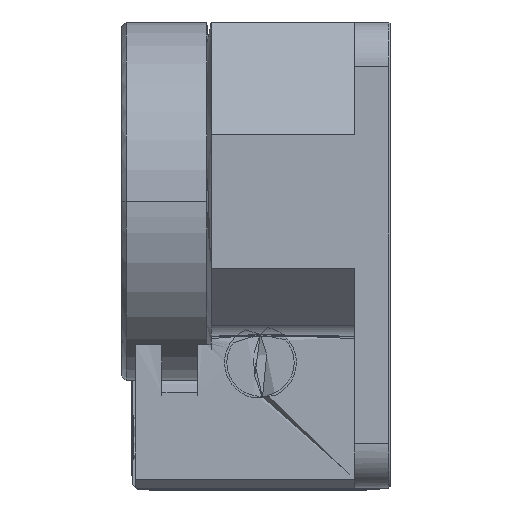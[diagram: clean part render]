
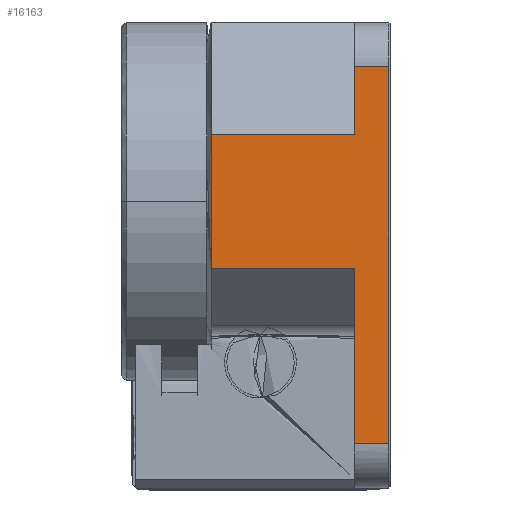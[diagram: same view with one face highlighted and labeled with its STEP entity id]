
A CAD part, left-side view. The second image highlights one B-rep face of the part: STEP entity #16163.
In plain terms, the highlighted planar face has unit normal (-1, 0, 0).
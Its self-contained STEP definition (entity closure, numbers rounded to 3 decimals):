
#697 = CARTESIAN_POINT ( 'NONE',  ( -20., 14.667, -7.5 ) ) ;
#822 = CARTESIAN_POINT ( 'NONE',  ( -20., 4., -20.5 ) ) ;
#1041 = EDGE_CURVE ( 'NONE', #30453, #6516, #5817, .T. ) ;
#1116 = CARTESIAN_POINT ( 'NONE',  ( -20., 2.733, -27. ) ) ;
#1667 = CARTESIAN_POINT ( 'NONE',  ( -20., 4., 7.5 ) ) ;
#2408 = CARTESIAN_POINT ( 'NONE',  ( -20., 0.2, 1. ) ) ;
#3066 = CARTESIAN_POINT ( 'NONE',  ( -20., 0.2, 15. ) ) ;
#3095 = VERTEX_POINT ( 'NONE', #19994 ) ;
#3163 = CARTESIAN_POINT ( 'NONE',  ( -20., 4., -27. ) ) ;
#3164 = EDGE_CURVE ( 'NONE', #23253, #22170, #29509, .T. ) ;
#3666 = CARTESIAN_POINT ( 'NONE',  ( -20., 9.333, -7.5 ) ) ;
#4283 = B_SPLINE_CURVE_WITH_KNOTS ( 'NONE', 3,
 ( #31467, #24942, #36947, #22379 ),
 .UNSPECIFIED., .F., .F.,
 ( 4, 4 ),
 ( 0., 1. ),
 .UNSPECIFIED. ) ;
#5817 = B_SPLINE_CURVE_WITH_KNOTS ( 'NONE', 3,
 ( #9959, #3666, #697, #24727 ),
 .UNSPECIFIED., .F., .F.,
 ( 4, 4 ),
 ( 0., 1. ),
 .UNSPECIFIED. ) ;
#5907 = CARTESIAN_POINT ( 'NONE',  ( -20., 0.2, 15. ) ) ;
#6516 = VERTEX_POINT ( 'NONE', #24325 ) ;
#6772 = EDGE_CURVE ( 'NONE', #21962, #23253, #37517, .T. ) ;
#6847 = CARTESIAN_POINT ( 'NONE',  ( -20., 4., -27. ) ) ;
#8160 = VERTEX_POINT ( 'NONE', #3163 ) ;
#8405 = CARTESIAN_POINT ( 'NONE',  ( -20., 4., 7.5 ) ) ;
#8984 = DIRECTION ( 'NONE',  ( 0., 1., 0. ) ) ;
#9959 = CARTESIAN_POINT ( 'NONE',  ( -20., 4., -7.5 ) ) ;
#10216 = CARTESIAN_POINT ( 'NONE',  ( -20., 4., -7.5 ) ) ;
#10670 = CARTESIAN_POINT ( 'NONE',  ( -20., 4., -7.5 ) ) ;
#10763 = CARTESIAN_POINT ( 'NONE',  ( -20., 4., 7.5 ) ) ;
#10913 = ORIENTED_EDGE ( 'NONE', *, *, #6772, .F. ) ;
#11540 = CARTESIAN_POINT ( 'NONE',  ( -20., 4., 15. ) ) ;
#11595 = CARTESIAN_POINT ( 'NONE',  ( -20., 4., 15. ) ) ;
#11639 = EDGE_LOOP ( 'NONE', ( #10913, #26708, #23153, #28771, #25637, #32592, #12481, #18820 ) ) ;
#11738 = DIRECTION ( 'NONE',  ( 1., 0., 0. ) ) ;
#12128 = PLANE ( 'NONE',  #37853 ) ;
#12460 = EDGE_CURVE ( 'NONE', #30453, #8160, #36022, .T. ) ;
#12481 = ORIENTED_EDGE ( 'NONE', *, *, #15895, .F. ) ;
#12744 = CARTESIAN_POINT ( 'NONE',  ( -20., 1.467, -27. ) ) ;
#14502 = CARTESIAN_POINT ( 'NONE',  ( -20., 4., 12.5 ) ) ;
#14542 = CARTESIAN_POINT ( 'NONE',  ( -20., 4., 15. ) ) ;
#15895 = EDGE_CURVE ( 'NONE', #22170, #8160, #24628, .T. ) ;
#16058 = CARTESIAN_POINT ( 'NONE',  ( -20., 14.667, 7.5 ) ) ;
#16163 = ADVANCED_FACE ( 'NONE', ( #38713 ), #12128, .F. ) ;
#17652 = CARTESIAN_POINT ( 'NONE',  ( -20., 4., 10. ) ) ;
#17697 = CARTESIAN_POINT ( 'NONE',  ( -20., 1.467, 15. ) ) ;
#18820 = ORIENTED_EDGE ( 'NONE', *, *, #3164, .F. ) ;
#19001 = CARTESIAN_POINT ( 'NONE',  ( -20., 9.333, 7.5 ) ) ;
#19754 = B_SPLINE_CURVE_WITH_KNOTS ( 'NONE', 3,
 ( #8405, #17652, #14502, #11540 ),
 .UNSPECIFIED., .F., .F.,
 ( 4, 4 ),
 ( 0., 1. ),
 .UNSPECIFIED. ) ;
#19994 = CARTESIAN_POINT ( 'NONE',  ( -20., 20., 7.5 ) ) ;
#20653 = CARTESIAN_POINT ( 'NONE',  ( -20., 2.733, 15. ) ) ;
#20792 = CARTESIAN_POINT ( 'NONE',  ( -20., 0.2, -27. ) ) ;
#21201 = EDGE_CURVE ( 'NONE', #3095, #6516, #4283, .T. ) ;
#21962 = VERTEX_POINT ( 'NONE', #14542 ) ;
#22170 = VERTEX_POINT ( 'NONE', #20792 ) ;
#22379 = CARTESIAN_POINT ( 'NONE',  ( -20., 20., -7.5 ) ) ;
#22660 = B_SPLINE_CURVE_WITH_KNOTS ( 'NONE', 3,
 ( #37702, #16058, #19001, #1667 ),
 .UNSPECIFIED., .F., .F.,
 ( 4, 4 ),
 ( 0., 1. ),
 .UNSPECIFIED. ) ;
#23075 = VERTEX_POINT ( 'NONE', #10763 ) ;
#23153 = ORIENTED_EDGE ( 'NONE', *, *, #38951, .F. ) ;
#23253 = VERTEX_POINT ( 'NONE', #3066 ) ;
#23863 = CARTESIAN_POINT ( 'NONE',  ( -20., 0.2, -27. ) ) ;
#24325 = CARTESIAN_POINT ( 'NONE',  ( -20., 20., -7.5 ) ) ;
#24628 = B_SPLINE_CURVE_WITH_KNOTS ( 'NONE', 3,
 ( #24953, #12744, #1116, #6847 ),
 .UNSPECIFIED., .F., .F.,
 ( 4, 4 ),
 ( 0., 1. ),
 .UNSPECIFIED. ) ;
#24727 = CARTESIAN_POINT ( 'NONE',  ( -20., 20., -7.5 ) ) ;
#24942 = CARTESIAN_POINT ( 'NONE',  ( -20., 20., 2.5 ) ) ;
#24953 = CARTESIAN_POINT ( 'NONE',  ( -20., 0.2, -27. ) ) ;
#25637 = ORIENTED_EDGE ( 'NONE', *, *, #1041, .F. ) ;
#26708 = ORIENTED_EDGE ( 'NONE', *, *, #28684, .F. ) ;
#28684 = EDGE_CURVE ( 'NONE', #23075, #21962, #19754, .T. ) ;
#28771 = ORIENTED_EDGE ( 'NONE', *, *, #21201, .T. ) ;
#29509 = B_SPLINE_CURVE_WITH_KNOTS ( 'NONE', 3,
 ( #38247, #2408, #35697, #23863 ),
 .UNSPECIFIED., .F., .F.,
 ( 4, 4 ),
 ( 0., 1. ),
 .UNSPECIFIED. ) ;
#30453 = VERTEX_POINT ( 'NONE', #10216 ) ;
#31467 = CARTESIAN_POINT ( 'NONE',  ( -20., 20., 7.5 ) ) ;
#32592 = ORIENTED_EDGE ( 'NONE', *, *, #12460, .T. ) ;
#32647 = CARTESIAN_POINT ( 'NONE',  ( -20., 20., 20. ) ) ;
#33921 = CARTESIAN_POINT ( 'NONE',  ( -20., 4., -27. ) ) ;
#35697 = CARTESIAN_POINT ( 'NONE',  ( -20., 0.2, -13. ) ) ;
#36022 = B_SPLINE_CURVE_WITH_KNOTS ( 'NONE', 3,
 ( #10670, #37055, #822, #33921 ),
 .UNSPECIFIED., .F., .F.,
 ( 4, 4 ),
 ( 0., 1. ),
 .UNSPECIFIED. ) ;
#36947 = CARTESIAN_POINT ( 'NONE',  ( -20., 20., -2.5 ) ) ;
#37055 = CARTESIAN_POINT ( 'NONE',  ( -20., 4., -14. ) ) ;
#37517 = B_SPLINE_CURVE_WITH_KNOTS ( 'NONE', 3,
 ( #11595, #20653, #17697, #5907 ),
 .UNSPECIFIED., .F., .F.,
 ( 4, 4 ),
 ( 0., 1. ),
 .UNSPECIFIED. ) ;
#37702 = CARTESIAN_POINT ( 'NONE',  ( -20., 20., 7.5 ) ) ;
#37853 = AXIS2_PLACEMENT_3D ( 'NONE', #32647, #11738, #8984 ) ;
#38247 = CARTESIAN_POINT ( 'NONE',  ( -20., 0.2, 15. ) ) ;
#38713 = FACE_OUTER_BOUND ( 'NONE', #11639, .T. ) ;
#38951 = EDGE_CURVE ( 'NONE', #3095, #23075, #22660, .T. ) ;
